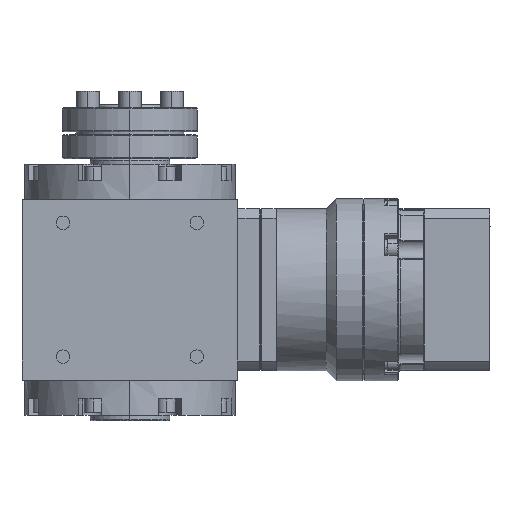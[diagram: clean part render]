
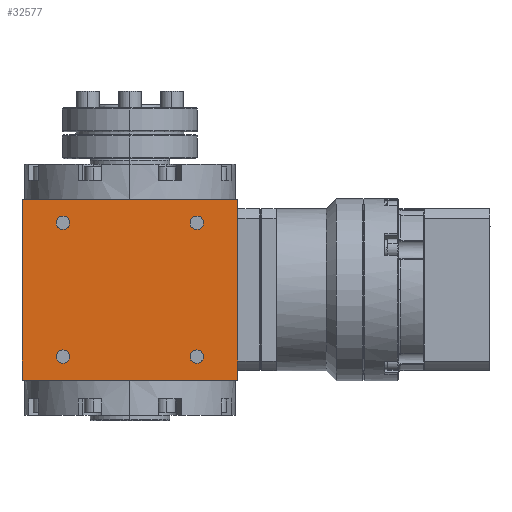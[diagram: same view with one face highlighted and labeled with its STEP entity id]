
A CAD part, left-side view. The second image highlights one B-rep face of the part: STEP entity #32577.
In plain terms, the highlighted planar face has unit normal (-1, 0, 0).
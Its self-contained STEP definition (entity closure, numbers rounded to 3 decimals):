
#64 = EDGE_CURVE ( 'NONE', #1328, #29187, #1641, .T. ) ;
#162 = CIRCLE ( 'NONE', #35053, 2.5 ) ;
#196 = EDGE_LOOP ( 'NONE', ( #1108, #5994, #28966, #1200 ) ) ;
#598 = CIRCLE ( 'NONE', #16298, 2.5 ) ;
#672 = VECTOR ( 'NONE', #34577, 1000. ) ;
#809 = EDGE_LOOP ( 'NONE', ( #1678, #28285 ) ) ;
#1108 = ORIENTED_EDGE ( 'NONE', *, *, #27575, .F. ) ;
#1200 = ORIENTED_EDGE ( 'NONE', *, *, #4669, .F. ) ;
#1328 = VERTEX_POINT ( 'NONE', #26215 ) ;
#1641 = CIRCLE ( 'NONE', #6909, 2.5 ) ;
#1678 = ORIENTED_EDGE ( 'NONE', *, *, #27568, .T. ) ;
#2092 = VERTEX_POINT ( 'NONE', #16226 ) ;
#2201 = DIRECTION ( 'NONE',  ( 1., 0., 0. ) ) ;
#2312 = CARTESIAN_POINT ( 'NONE',  ( -40., -40., -33.5 ) ) ;
#2489 = ORIENTED_EDGE ( 'NONE', *, *, #64, .T. ) ;
#3672 = DIRECTION ( 'NONE',  ( 0., -1., 0. ) ) ;
#3725 = EDGE_CURVE ( 'NONE', #12444, #7510, #34669, .T. ) ;
#4669 = EDGE_CURVE ( 'NONE', #20145, #5118, #40760, .T. ) ;
#4692 = DIRECTION ( 'NONE',  ( 0., -1., 0. ) ) ;
#5118 = VERTEX_POINT ( 'NONE', #40325 ) ;
#5498 = DIRECTION ( 'NONE',  ( 0., -1., 0. ) ) ;
#5807 = VECTOR ( 'NONE', #33386, 1000. ) ;
#5994 = ORIENTED_EDGE ( 'NONE', *, *, #36607, .T. ) ;
#6428 = CARTESIAN_POINT ( 'NONE',  ( -40., -27.315, 24.815 ) ) ;
#6642 = VECTOR ( 'NONE', #19707, 1000. ) ;
#6867 = VERTEX_POINT ( 'NONE', #6428 ) ;
#6909 = AXIS2_PLACEMENT_3D ( 'NONE', #22872, #39186, #29274 ) ;
#7041 = CARTESIAN_POINT ( 'NONE',  ( -40., 22.315, 24.815 ) ) ;
#7154 = DIRECTION ( 'NONE',  ( 1., 0., 0. ) ) ;
#7326 = DIRECTION ( 'NONE',  ( 1., 0., 0. ) ) ;
#7510 = VERTEX_POINT ( 'NONE', #12071 ) ;
#7522 = EDGE_CURVE ( 'NONE', #29187, #1328, #30093, .T. ) ;
#9027 = EDGE_CURVE ( 'NONE', #5118, #33112, #36746, .T. ) ;
#9460 = DIRECTION ( 'NONE',  ( 1., 0., 0. ) ) ;
#9798 = CARTESIAN_POINT ( 'NONE',  ( -40., -24.815, -24.815 ) ) ;
#10747 = EDGE_LOOP ( 'NONE', ( #11088, #37063 ) ) ;
#11088 = ORIENTED_EDGE ( 'NONE', *, *, #34573, .T. ) ;
#12071 = CARTESIAN_POINT ( 'NONE',  ( -40., -27.315, -24.815 ) ) ;
#12444 = VERTEX_POINT ( 'NONE', #39913 ) ;
#12914 = CARTESIAN_POINT ( 'NONE',  ( -40., 24.815, 24.815 ) ) ;
#13600 = AXIS2_PLACEMENT_3D ( 'NONE', #31939, #9460, #3672 ) ;
#14269 = VERTEX_POINT ( 'NONE', #7041 ) ;
#14541 = EDGE_CURVE ( 'NONE', #2092, #6867, #15250, .T. ) ;
#15250 = CIRCLE ( 'NONE', #29001, 2.5 ) ;
#15331 = EDGE_LOOP ( 'NONE', ( #2489, #28400 ) ) ;
#15643 = EDGE_CURVE ( 'NONE', #30353, #14269, #30092, .T. ) ;
#16226 = CARTESIAN_POINT ( 'NONE',  ( -40., -22.315, 24.815 ) ) ;
#16298 = AXIS2_PLACEMENT_3D ( 'NONE', #20341, #19949, #4692 ) ;
#19707 = DIRECTION ( 'NONE',  ( 0., 0., 1. ) ) ;
#19949 = DIRECTION ( 'NONE',  ( 1., 0., 0. ) ) ;
#20102 = CARTESIAN_POINT ( 'NONE',  ( -40., 40., 33.5 ) ) ;
#20145 = VERTEX_POINT ( 'NONE', #20102 ) ;
#20243 = FACE_BOUND ( 'NONE', #15331, .T. ) ;
#20341 = CARTESIAN_POINT ( 'NONE',  ( -40., -24.815, 24.815 ) ) ;
#20667 = ORIENTED_EDGE ( 'NONE', *, *, #30597, .T. ) ;
#20862 = AXIS2_PLACEMENT_3D ( 'NONE', #25050, #27745, #5498 ) ;
#21016 = FACE_OUTER_BOUND ( 'NONE', #196, .T. ) ;
#21614 = CARTESIAN_POINT ( 'NONE',  ( -40., 27.315, 24.815 ) ) ;
#21722 = AXIS2_PLACEMENT_3D ( 'NONE', #23153, #35338, #29338 ) ;
#22428 = CIRCLE ( 'NONE', #29685, 2.5 ) ;
#22872 = CARTESIAN_POINT ( 'NONE',  ( -40., 24.815, -24.815 ) ) ;
#22937 = FACE_BOUND ( 'NONE', #32682, .T. ) ;
#23025 = LINE ( 'NONE', #38709, #6642 ) ;
#23153 = CARTESIAN_POINT ( 'NONE',  ( -40., 40., -33.5 ) ) ;
#23678 = LINE ( 'NONE', #38402, #5807 ) ;
#24949 = ORIENTED_EDGE ( 'NONE', *, *, #14541, .T. ) ;
#25050 = CARTESIAN_POINT ( 'NONE',  ( -40., 24.815, -24.815 ) ) ;
#25413 = VECTOR ( 'NONE', #33863, 1000. ) ;
#25541 = DIRECTION ( 'NONE',  ( 1., 0., 0. ) ) ;
#26215 = CARTESIAN_POINT ( 'NONE',  ( -40., 22.315, -24.815 ) ) ;
#27447 = CARTESIAN_POINT ( 'NONE',  ( -40., 40., -33.5 ) ) ;
#27568 = EDGE_CURVE ( 'NONE', #14269, #30353, #22428, .T. ) ;
#27575 = EDGE_CURVE ( 'NONE', #37718, #20145, #23025, .T. ) ;
#27745 = DIRECTION ( 'NONE',  ( 1., 0., 0. ) ) ;
#27976 = CARTESIAN_POINT ( 'NONE',  ( -40., 0., 33.5 ) ) ;
#28285 = ORIENTED_EDGE ( 'NONE', *, *, #15643, .T. ) ;
#28400 = ORIENTED_EDGE ( 'NONE', *, *, #7522, .T. ) ;
#28740 = DIRECTION ( 'NONE',  ( 0., -1., 0. ) ) ;
#28966 = ORIENTED_EDGE ( 'NONE', *, *, #9027, .F. ) ;
#29001 = AXIS2_PLACEMENT_3D ( 'NONE', #38141, #25541, #40635 ) ;
#29141 = PLANE ( 'NONE',  #21722 ) ;
#29187 = VERTEX_POINT ( 'NONE', #37861 ) ;
#29274 = DIRECTION ( 'NONE',  ( 0., -1., 0. ) ) ;
#29338 = DIRECTION ( 'NONE',  ( 0., -1., 0. ) ) ;
#29685 = AXIS2_PLACEMENT_3D ( 'NONE', #12914, #7154, #31918 ) ;
#30041 = AXIS2_PLACEMENT_3D ( 'NONE', #9798, #7326, #32279 ) ;
#30093 = CIRCLE ( 'NONE', #20862, 2.5 ) ;
#30092 = CIRCLE ( 'NONE', #13600, 2.5 ) ;
#30353 = VERTEX_POINT ( 'NONE', #21614 ) ;
#30437 = CARTESIAN_POINT ( 'NONE',  ( -40., -24.815, -24.815 ) ) ;
#30597 = EDGE_CURVE ( 'NONE', #6867, #2092, #598, .T. ) ;
#31918 = DIRECTION ( 'NONE',  ( 0., -1., 0. ) ) ;
#31939 = CARTESIAN_POINT ( 'NONE',  ( -40., 24.815, 24.815 ) ) ;
#32279 = DIRECTION ( 'NONE',  ( 0., -1., 0. ) ) ;
#32577 = ADVANCED_FACE ( 'NONE', ( #21016, #20243, #38837, #22937, #33622 ), #29141, .T. ) ;
#32682 = EDGE_LOOP ( 'NONE', ( #20667, #24949 ) ) ;
#33112 = VERTEX_POINT ( 'NONE', #36674 ) ;
#33386 = DIRECTION ( 'NONE',  ( 0., -1., 0. ) ) ;
#33622 = FACE_BOUND ( 'NONE', #809, .T. ) ;
#33863 = DIRECTION ( 'NONE',  ( 0., 0., -1. ) ) ;
#34573 = EDGE_CURVE ( 'NONE', #7510, #12444, #162, .T. ) ;
#34577 = DIRECTION ( 'NONE',  ( 0., -1., 0. ) ) ;
#34669 = CIRCLE ( 'NONE', #30041, 2.5 ) ;
#35053 = AXIS2_PLACEMENT_3D ( 'NONE', #30437, #2201, #28740 ) ;
#35338 = DIRECTION ( 'NONE',  ( -1., 0., 0. ) ) ;
#36607 = EDGE_CURVE ( 'NONE', #37718, #33112, #23678, .T. ) ;
#36674 = CARTESIAN_POINT ( 'NONE',  ( -40., -40., -33.5 ) ) ;
#36746 = LINE ( 'NONE', #2312, #25413 ) ;
#37063 = ORIENTED_EDGE ( 'NONE', *, *, #3725, .T. ) ;
#37718 = VERTEX_POINT ( 'NONE', #27447 ) ;
#37861 = CARTESIAN_POINT ( 'NONE',  ( -40., 27.315, -24.815 ) ) ;
#38141 = CARTESIAN_POINT ( 'NONE',  ( -40., -24.815, 24.815 ) ) ;
#38402 = CARTESIAN_POINT ( 'NONE',  ( -40., 0., -33.5 ) ) ;
#38709 = CARTESIAN_POINT ( 'NONE',  ( -40., 40., -33.5 ) ) ;
#38837 = FACE_BOUND ( 'NONE', #10747, .T. ) ;
#39186 = DIRECTION ( 'NONE',  ( 1., 0., 0. ) ) ;
#39913 = CARTESIAN_POINT ( 'NONE',  ( -40., -22.315, -24.815 ) ) ;
#40325 = CARTESIAN_POINT ( 'NONE',  ( -40., -40., 33.5 ) ) ;
#40635 = DIRECTION ( 'NONE',  ( 0., -1., 0. ) ) ;
#40760 = LINE ( 'NONE', #27976, #672 ) ;
